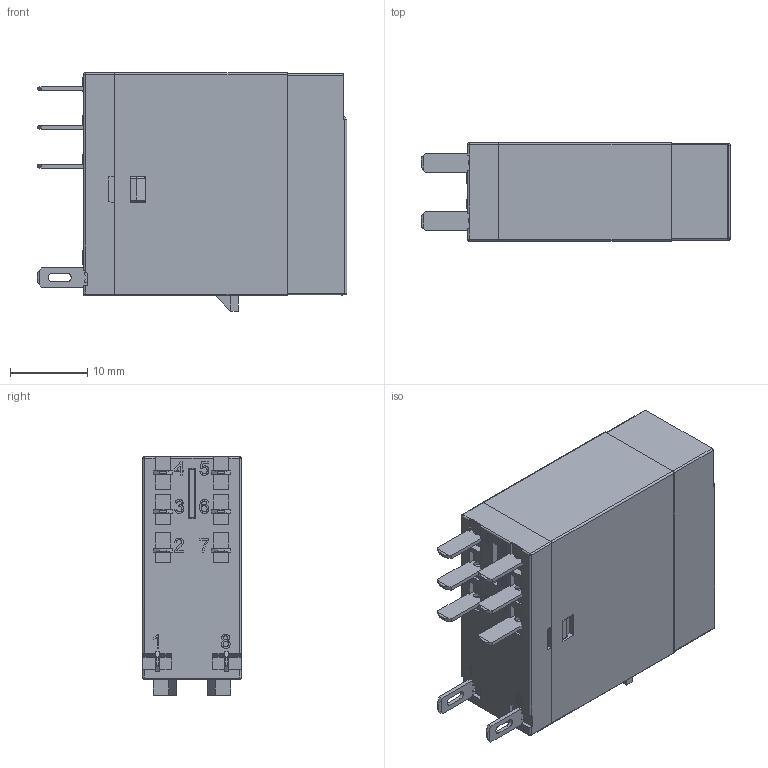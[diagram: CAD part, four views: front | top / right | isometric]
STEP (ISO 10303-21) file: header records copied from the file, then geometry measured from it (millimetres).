
FILE_DESCRIPTION (( 'STEP AP214' ), '1' );
FILE_NAME ('RN09-12DC.STEP', '2026-03-23T10:26:53', ( '' ), ( '' ), 'SwSTEP 2.0', 'SolidWorks 2025', '' );
FILE_SCHEMA (( 'AUTOMOTIVE_DESIGN' ));
Length unit declared in the file: millimetre
Products named in the file (1): RN09-12DC
Bounding box: 40 x 12.7 x 30.8 mm (x, y, z)
Volume: 4306.4 mm3; surface area: 12349.4 mm2
Topology: 17 solids, 21 shells, 2094 faces, 6718 edges, 4814 vertices
Faces by surface type: plane 1538, cylinder 398, bspline 111, sphere 23, cone 16, torus 8
Entity records: 88010 total; most frequent: CARTESIAN_POINT 27991, ORIENTED_EDGE 13404, DIRECTION 10525, EDGE_CURVE 6702, VECTOR 5165, LINE 5165, VERTEX_POINT 4814, AXIS2_PLACEMENT_3D 2680
